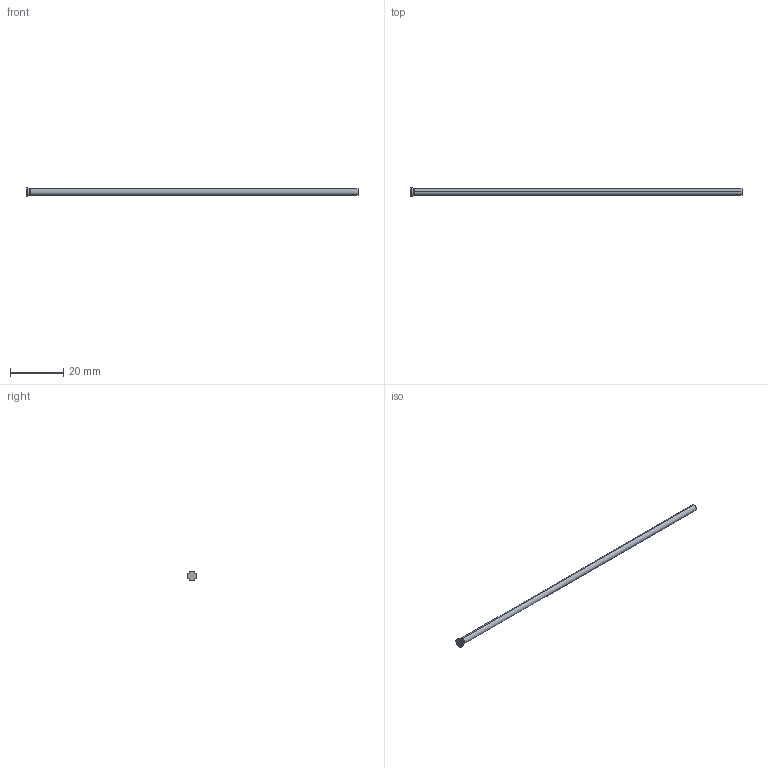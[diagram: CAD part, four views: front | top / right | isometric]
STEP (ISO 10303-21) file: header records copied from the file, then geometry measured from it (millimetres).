
FILE_DESCRIPTION (( 'STEP AP214' ), '1' );
FILE_NAME ('D-2,4x125.STEP', '2020-06-08T09:57:53', ( 'August' ), ( '' ), 'SwSTEP 2.0', 'SolidWorks 2018', '' );
FILE_SCHEMA (( 'AUTOMOTIVE_DESIGN' ));
Length unit declared in the file: millimetre
Products named in the file (1): D-2,4x125
Bounding box: 125 x 3.5 x 3.5 mm (x, y, z)
Volume: 570.3 mm3; surface area: 961.3 mm2
Topology: 1 solids, 1 shells, 10 faces, 18 edges, 10 vertices
Faces by surface type: cylinder 4, torus 2, cone 2, plane 2
Entity records: 280 total; most frequent: DIRECTION 52, CARTESIAN_POINT 39, ORIENTED_EDGE 36, AXIS2_PLACEMENT_3D 23, EDGE_CURVE 18, CIRCLE 12, EDGE_LOOP 10, VERTEX_POINT 10
